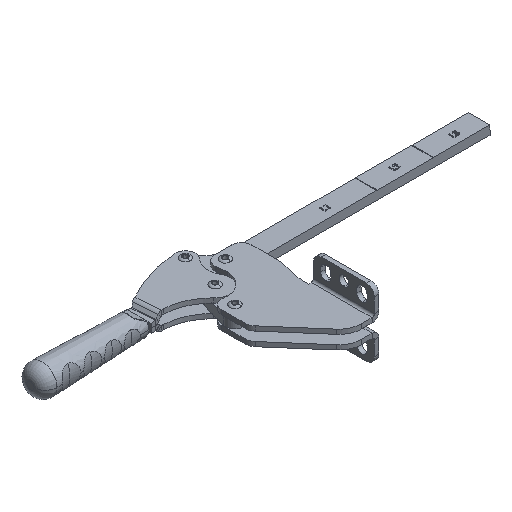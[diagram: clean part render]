
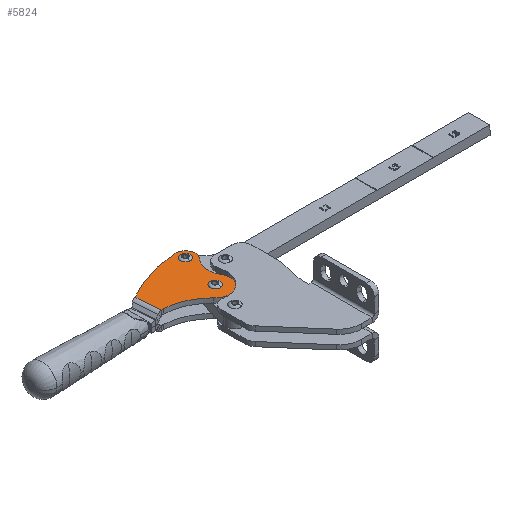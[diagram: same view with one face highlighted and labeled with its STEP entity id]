
A CAD part, isometric view. The second image highlights one B-rep face of the part: STEP entity #5824.
In plain terms, the highlighted planar face has unit normal (0, 0, 1) as drawn and (0, 0, -1) by its records, which use the part's own axes.
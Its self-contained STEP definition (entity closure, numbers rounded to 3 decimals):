
#104 = DIRECTION ( 'NONE',  ( 0., 0., 1. ) ) ;
#146 = EDGE_CURVE ( 'NONE', #5469, #10945, #4417, .T. ) ;
#185 = AXIS2_PLACEMENT_3D ( 'NONE', #203, #2981, #4527 ) ;
#188 = CARTESIAN_POINT ( 'NONE',  ( 50.858, -48.887, -4. ) ) ;
#203 = CARTESIAN_POINT ( 'NONE',  ( 9.219, -33.042, -4. ) ) ;
#317 = DIRECTION ( 'NONE',  ( 0., 0., -1. ) ) ;
#759 = EDGE_LOOP ( 'NONE', ( #16540, #4430 ) ) ;
#836 = CIRCLE ( 'NONE', #11892, 9. ) ;
#908 = LINE ( 'NONE', #10253, #6349 ) ;
#909 = ORIENTED_EDGE ( 'NONE', *, *, #12933, .F. ) ;
#932 = DIRECTION ( 'NONE',  ( 1., 0., 0. ) ) ;
#1046 = CARTESIAN_POINT ( 'NONE',  ( 55.329, -70.895, -4. ) ) ;
#1412 = VERTEX_POINT ( 'NONE', #9806 ) ;
#1475 = EDGE_CURVE ( 'NONE', #16305, #3491, #908, .T. ) ;
#1480 = CARTESIAN_POINT ( 'NONE',  ( -9.761, 0., -4. ) ) ;
#1832 = ORIENTED_EDGE ( 'NONE', *, *, #4781, .T. ) ;
#2251 = DIRECTION ( 'NONE',  ( 0., 0., -1. ) ) ;
#2311 = CARTESIAN_POINT ( 'NONE',  ( 51.045, -2.745, -4. ) ) ;
#2401 = EDGE_CURVE ( 'NONE', #2567, #2976, #836, .T. ) ;
#2567 = VERTEX_POINT ( 'NONE', #7319 ) ;
#2620 = EDGE_LOOP ( 'NONE', ( #12300, #8906 ) ) ;
#2682 = CIRCLE ( 'NONE', #185, 3. ) ;
#2753 = DIRECTION ( 'NONE',  ( 0., 0., -1. ) ) ;
#2775 = EDGE_CURVE ( 'NONE', #7727, #9514, #11625, .T. ) ;
#2795 = EDGE_CURVE ( 'NONE', #6097, #13416, #3619, .T. ) ;
#2814 = DIRECTION ( 'NONE',  ( 1., 0., 0. ) ) ;
#2836 = DIRECTION ( 'NONE',  ( 1., 0., 0. ) ) ;
#2919 = CARTESIAN_POINT ( 'NONE',  ( -0.761, 0., -4. ) ) ;
#2959 = CIRCLE ( 'NONE', #10401, 24.315 ) ;
#2976 = VERTEX_POINT ( 'NONE', #1480 ) ;
#2981 = DIRECTION ( 'NONE',  ( 0., 0., 1. ) ) ;
#3029 = DIRECTION ( 'NONE',  ( 1., 0., 0. ) ) ;
#3387 = DIRECTION ( 'NONE',  ( 1., 0., 0. ) ) ;
#3491 = VERTEX_POINT ( 'NONE', #2311 ) ;
#3619 = CIRCLE ( 'NONE', #15218, 3. ) ;
#3708 = EDGE_CURVE ( 'NONE', #13416, #6097, #2682, .T. ) ;
#4182 = ORIENTED_EDGE ( 'NONE', *, *, #16390, .T. ) ;
#4417 = CIRCLE ( 'NONE', #14092, 13. ) ;
#4430 = ORIENTED_EDGE ( 'NONE', *, *, #13378, .T. ) ;
#4527 = DIRECTION ( 'NONE',  ( 1., 0., 0. ) ) ;
#4552 = DIRECTION ( 'NONE',  ( 1., 0., 0. ) ) ;
#4578 = CARTESIAN_POINT ( 'NONE',  ( 0., 0., -4. ) ) ;
#4781 = EDGE_CURVE ( 'NONE', #1412, #3491, #15966, .T. ) ;
#4790 = VERTEX_POINT ( 'NONE', #7516 ) ;
#5226 = DIRECTION ( 'NONE',  ( 1., 0., 0. ) ) ;
#5469 = VERTEX_POINT ( 'NONE', #13149 ) ;
#5474 = DIRECTION ( 'NONE',  ( 0., 0., -1. ) ) ;
#5563 = ORIENTED_EDGE ( 'NONE', *, *, #15358, .T. ) ;
#5824 = ADVANCED_FACE ( 'NONE', ( #10109, #5883, #16438 ), #15393, .T. ) ;
#5883 = FACE_BOUND ( 'NONE', #759, .T. ) ;
#6097 = VERTEX_POINT ( 'NONE', #14072 ) ;
#6349 = VECTOR ( 'NONE', #11717, 1000. ) ;
#6867 = DIRECTION ( 'NONE',  ( 0., 0., 1. ) ) ;
#7091 = CIRCLE ( 'NONE', #14280, 9. ) ;
#7263 = CARTESIAN_POINT ( 'NONE',  ( -18.903, -19.997, -4. ) ) ;
#7319 = CARTESIAN_POINT ( 'NONE',  ( -6.808, -6.666, -4. ) ) ;
#7410 = CIRCLE ( 'NONE', #10430, 18. ) ;
#7443 = CARTESIAN_POINT ( 'NONE',  ( -0.761, 0., -4. ) ) ;
#7516 = CARTESIAN_POINT ( 'NONE',  ( 49.055, -24.639, -4. ) ) ;
#7523 = DIRECTION ( 'NONE',  ( 0., 0., 1. ) ) ;
#7639 = ORIENTED_EDGE ( 'NONE', *, *, #2401, .T. ) ;
#7686 = AXIS2_PLACEMENT_3D ( 'NONE', #11236, #8721, #13997 ) ;
#7727 = VERTEX_POINT ( 'NONE', #8259 ) ;
#7900 = CARTESIAN_POINT ( 'NONE',  ( -0.761, 0., -4. ) ) ;
#8138 = CIRCLE ( 'NONE', #12585, 13. ) ;
#8152 = DIRECTION ( 'NONE',  ( 1., 0., 0. ) ) ;
#8259 = CARTESIAN_POINT ( 'NONE',  ( -3.761, 0., -4. ) ) ;
#8560 = CARTESIAN_POINT ( 'NONE',  ( 12.219, -33.042, -4. ) ) ;
#8721 = DIRECTION ( 'NONE',  ( 0., 0., -1. ) ) ;
#8906 = ORIENTED_EDGE ( 'NONE', *, *, #3708, .T. ) ;
#8919 = DIRECTION ( 'NONE',  ( 0., 0., 1. ) ) ;
#9514 = VERTEX_POINT ( 'NONE', #10385 ) ;
#9575 = DIRECTION ( 'NONE',  ( 0., 0., 1. ) ) ;
#9806 = CARTESIAN_POINT ( 'NONE',  ( -0.761, 9., -4. ) ) ;
#10109 = FACE_BOUND ( 'NONE', #2620, .T. ) ;
#10253 = CARTESIAN_POINT ( 'NONE',  ( 51.045, 0., -4. ) ) ;
#10385 = CARTESIAN_POINT ( 'NONE',  ( 2.239, 0., -4. ) ) ;
#10401 = AXIS2_PLACEMENT_3D ( 'NONE', #188, #5474, #5226 ) ;
#10413 = CIRCLE ( 'NONE', #15411, 3. ) ;
#10430 = AXIS2_PLACEMENT_3D ( 'NONE', #7263, #9575, #3029 ) ;
#10550 = DIRECTION ( 'NONE',  ( 1., 0., 0. ) ) ;
#10945 = VERTEX_POINT ( 'NONE', #13471 ) ;
#10977 = EDGE_CURVE ( 'NONE', #10945, #14827, #8138, .T. ) ;
#11042 = CARTESIAN_POINT ( 'NONE',  ( -0.761, 0., -4. ) ) ;
#11214 = DIRECTION ( 'NONE',  ( 0., 0., -1. ) ) ;
#11236 = CARTESIAN_POINT ( 'NONE',  ( -0.761, -111.127, -4. ) ) ;
#11261 = CARTESIAN_POINT ( 'NONE',  ( 51.045, -24.573, -4. ) ) ;
#11625 = CIRCLE ( 'NONE', #13006, 3. ) ;
#11717 = DIRECTION ( 'NONE',  ( 0., 1., 0. ) ) ;
#11850 = ORIENTED_EDGE ( 'NONE', *, *, #146, .T. ) ;
#11892 = AXIS2_PLACEMENT_3D ( 'NONE', #2919, #2753, #2836 ) ;
#12300 = ORIENTED_EDGE ( 'NONE', *, *, #2795, .T. ) ;
#12585 = AXIS2_PLACEMENT_3D ( 'NONE', #15982, #317, #13127 ) ;
#12933 = EDGE_CURVE ( 'NONE', #4790, #16305, #2959, .T. ) ;
#12985 = ORIENTED_EDGE ( 'NONE', *, *, #13862, .T. ) ;
#13000 = DIRECTION ( 'NONE',  ( 0., 0., -1. ) ) ;
#13006 = AXIS2_PLACEMENT_3D ( 'NONE', #7900, #104, #8152 ) ;
#13127 = DIRECTION ( 'NONE',  ( 1., 0., 0. ) ) ;
#13149 = CARTESIAN_POINT ( 'NONE',  ( 19.673, -40.768, -4. ) ) ;
#13187 = CARTESIAN_POINT ( 'NONE',  ( 9.219, -33.042, -4. ) ) ;
#13371 = ORIENTED_EDGE ( 'NONE', *, *, #1475, .F. ) ;
#13378 = EDGE_CURVE ( 'NONE', #9514, #7727, #10413, .T. ) ;
#13416 = VERTEX_POINT ( 'NONE', #8560 ) ;
#13471 = CARTESIAN_POINT ( 'NONE',  ( -3.781, -33.042, -4. ) ) ;
#13476 = CIRCLE ( 'NONE', #15412, 46.679 ) ;
#13860 = AXIS2_PLACEMENT_3D ( 'NONE', #4578, #2251, #932 ) ;
#13862 = EDGE_CURVE ( 'NONE', #14827, #2567, #7410, .T. ) ;
#13997 = DIRECTION ( 'NONE',  ( 1., 0., 0. ) ) ;
#14072 = CARTESIAN_POINT ( 'NONE',  ( 6.219, -33.042, -4. ) ) ;
#14092 = AXIS2_PLACEMENT_3D ( 'NONE', #16595, #13000, #16673 ) ;
#14280 = AXIS2_PLACEMENT_3D ( 'NONE', #11042, #11214, #4552 ) ;
#14827 = VERTEX_POINT ( 'NONE', #16898 ) ;
#15218 = AXIS2_PLACEMENT_3D ( 'NONE', #13187, #6867, #2814 ) ;
#15358 = EDGE_CURVE ( 'NONE', #2976, #1412, #7091, .T. ) ;
#15393 = PLANE ( 'NONE',  #13860 ) ;
#15411 = AXIS2_PLACEMENT_3D ( 'NONE', #7443, #7523, #3387 ) ;
#15412 = AXIS2_PLACEMENT_3D ( 'NONE', #1046, #8919, #10550 ) ;
#15744 = EDGE_LOOP ( 'NONE', ( #909, #4182, #11850, #16965, #12985, #7639, #5563, #1832, #13371 ) ) ;
#15966 = CIRCLE ( 'NONE', #7686, 120.127 ) ;
#15982 = CARTESIAN_POINT ( 'NONE',  ( 9.219, -33.042, -4. ) ) ;
#16305 = VERTEX_POINT ( 'NONE', #11261 ) ;
#16390 = EDGE_CURVE ( 'NONE', #4790, #5469, #13476, .T. ) ;
#16438 = FACE_OUTER_BOUND ( 'NONE', #15744, .T. ) ;
#16540 = ORIENTED_EDGE ( 'NONE', *, *, #2775, .T. ) ;
#16595 = CARTESIAN_POINT ( 'NONE',  ( 9.219, -33.042, -4. ) ) ;
#16673 = DIRECTION ( 'NONE',  ( 1., 0., 0. ) ) ;
#16898 = CARTESIAN_POINT ( 'NONE',  ( -2.574, -27.571, -4. ) ) ;
#16965 = ORIENTED_EDGE ( 'NONE', *, *, #10977, .T. ) ;
